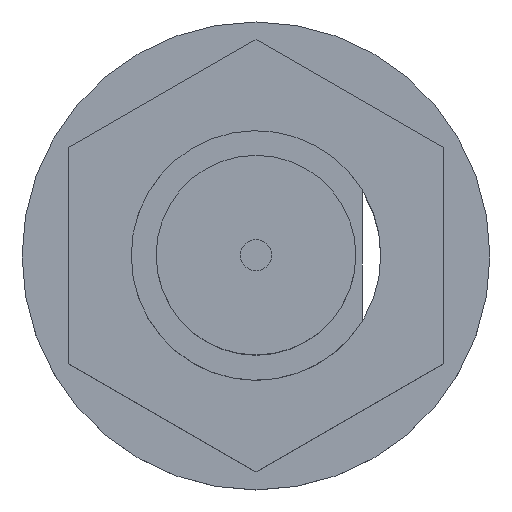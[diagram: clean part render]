
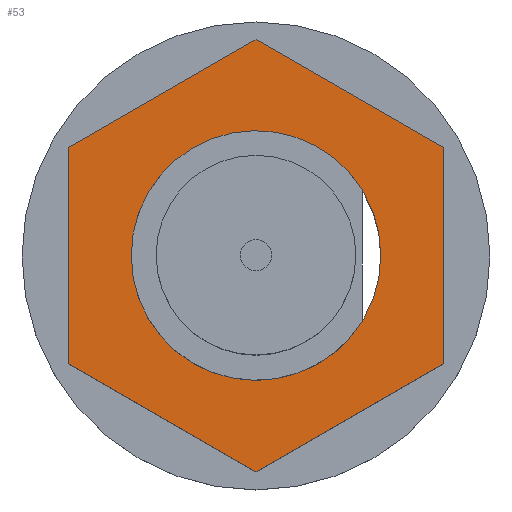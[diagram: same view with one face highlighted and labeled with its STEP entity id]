
A CAD part, top view. The second image highlights one B-rep face of the part: STEP entity #53.
In plain terms, the highlighted planar face has unit normal (0, 0, 1) as drawn and (-1, 0, 0) by its records, which use the part's own axes.
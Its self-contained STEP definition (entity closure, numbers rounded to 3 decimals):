
#48 = EDGE_LOOP ( 'NONE', ( #49, #77, #540, #84, #73, #88 ) ) ;
#49 = ORIENTED_EDGE ( 'NONE', *, *, #75, .T. ) ;
#50 = VERTEX_POINT ( 'NONE', #468 ) ;
#53 = ADVANCED_FACE ( 'NONE', ( #463, #530 ), #529, .F. ) ;
#71 = VERTEX_POINT ( 'NONE', #498 ) ;
#73 = ORIENTED_EDGE ( 'NONE', *, *, #79, .T. ) ;
#74 = VERTEX_POINT ( 'NONE', #563 ) ;
#75 = EDGE_CURVE ( 'NONE', #71, #80, #562, .T. ) ;
#76 = VERTEX_POINT ( 'NONE', #558 ) ;
#77 = ORIENTED_EDGE ( 'NONE', *, *, #78, .T. ) ;
#78 = EDGE_CURVE ( 'NONE', #80, #76, #557, .T. ) ;
#79 = EDGE_CURVE ( 'NONE', #74, #87, #553, .T. ) ;
#80 = VERTEX_POINT ( 'NONE', #549 ) ;
#81 = EDGE_CURVE ( 'NONE', #76, #100, #548, .T. ) ;
#82 = ORIENTED_EDGE ( 'NONE', *, *, #127, .F. ) ;
#83 = EDGE_CURVE ( 'NONE', #100, #74, #544, .T. ) ;
#84 = ORIENTED_EDGE ( 'NONE', *, *, #83, .T. ) ;
#85 = EDGE_LOOP ( 'NONE', ( #82, #103 ) ) ;
#86 = EDGE_CURVE ( 'NONE', #87, #71, #539, .T. ) ;
#87 = VERTEX_POINT ( 'NONE', #535 ) ;
#88 = ORIENTED_EDGE ( 'NONE', *, *, #86, .T. ) ;
#100 = VERTEX_POINT ( 'NONE', #592 ) ;
#103 = ORIENTED_EDGE ( 'NONE', *, *, #104, .F. ) ;
#104 = EDGE_CURVE ( 'NONE', #50, #123, #578, .T. ) ;
#123 = VERTEX_POINT ( 'NONE', #620 ) ;
#127 = EDGE_CURVE ( 'NONE', #123, #50, #619, .T. ) ;
#463 = FACE_OUTER_BOUND ( 'NONE', #48, .T. ) ;
#468 = CARTESIAN_POINT ( 'NONE',  ( -21., -2., 3.464 ) ) ;
#498 = CARTESIAN_POINT ( 'NONE',  ( -21., 6.928, 0. ) ) ;
#525 = DIRECTION ( 'NONE',  ( 0., 0.5, -0.866 ) ) ;
#526 = DIRECTION ( 'NONE',  ( 1., 0., 0. ) ) ;
#527 = CARTESIAN_POINT ( 'NONE',  ( -21., 10.392, 6. ) ) ;
#528 = AXIS2_PLACEMENT_3D ( 'NONE', #527, #526, #525 ) ;
#529 = PLANE ( 'NONE',  #528 ) ;
#530 = FACE_BOUND ( 'NONE', #85, .T. ) ;
#535 = CARTESIAN_POINT ( 'NONE',  ( -21., 3.464, 6. ) ) ;
#536 = DIRECTION ( 'NONE',  ( 0., 0.5, -0.866 ) ) ;
#537 = VECTOR ( 'NONE', #536, 1000. ) ;
#538 = CARTESIAN_POINT ( 'NONE',  ( -21., 3.464, 6. ) ) ;
#539 = LINE ( 'NONE', #538, #537 ) ;
#540 = ORIENTED_EDGE ( 'NONE', *, *, #81, .T. ) ;
#541 = DIRECTION ( 'NONE',  ( 0., 0.5, 0.866 ) ) ;
#542 = VECTOR ( 'NONE', #541, 1000. ) ;
#543 = CARTESIAN_POINT ( 'NONE',  ( -21., -6.928, 0. ) ) ;
#544 = LINE ( 'NONE', #543, #542 ) ;
#545 = DIRECTION ( 'NONE',  ( 0., -0.5, 0.866 ) ) ;
#546 = VECTOR ( 'NONE', #545, 1000. ) ;
#547 = CARTESIAN_POINT ( 'NONE',  ( -21., -3.464, -6. ) ) ;
#548 = LINE ( 'NONE', #547, #546 ) ;
#549 = CARTESIAN_POINT ( 'NONE',  ( -21., 3.464, -6. ) ) ;
#550 = DIRECTION ( 'NONE',  ( 0., 1., 0. ) ) ;
#551 = VECTOR ( 'NONE', #550, 1000. ) ;
#552 = CARTESIAN_POINT ( 'NONE',  ( -21., -3.464, 6. ) ) ;
#553 = LINE ( 'NONE', #552, #551 ) ;
#554 = DIRECTION ( 'NONE',  ( 0., -1., 0. ) ) ;
#555 = VECTOR ( 'NONE', #554, 1000. ) ;
#556 = CARTESIAN_POINT ( 'NONE',  ( -21., 3.464, -6. ) ) ;
#557 = LINE ( 'NONE', #556, #555 ) ;
#558 = CARTESIAN_POINT ( 'NONE',  ( -21., -3.464, -6. ) ) ;
#559 = DIRECTION ( 'NONE',  ( 0., -0.5, -0.866 ) ) ;
#560 = VECTOR ( 'NONE', #559, 1000. ) ;
#561 = CARTESIAN_POINT ( 'NONE',  ( -21., 6.928, 0. ) ) ;
#562 = LINE ( 'NONE', #561, #560 ) ;
#563 = CARTESIAN_POINT ( 'NONE',  ( -21., -3.464, 6. ) ) ;
#574 = DIRECTION ( 'NONE',  ( 0., -0.5, 0.866 ) ) ;
#575 = DIRECTION ( 'NONE',  ( -1., 0., 0. ) ) ;
#576 = CARTESIAN_POINT ( 'NONE',  ( -21., 0., 0. ) ) ;
#577 = AXIS2_PLACEMENT_3D ( 'NONE', #576, #575, #574 ) ;
#578 = CIRCLE ( 'NONE', #577, 4. ) ;
#592 = CARTESIAN_POINT ( 'NONE',  ( -21., -6.928, 0. ) ) ;
#615 = DIRECTION ( 'NONE',  ( 0., -0.5, 0.866 ) ) ;
#616 = DIRECTION ( 'NONE',  ( -1., 0., 0. ) ) ;
#617 = CARTESIAN_POINT ( 'NONE',  ( -21., 0., 0. ) ) ;
#618 = AXIS2_PLACEMENT_3D ( 'NONE', #617, #616, #615 ) ;
#619 = CIRCLE ( 'NONE', #618, 4. ) ;
#620 = CARTESIAN_POINT ( 'NONE',  ( -21., 2., -3.464 ) ) ;
